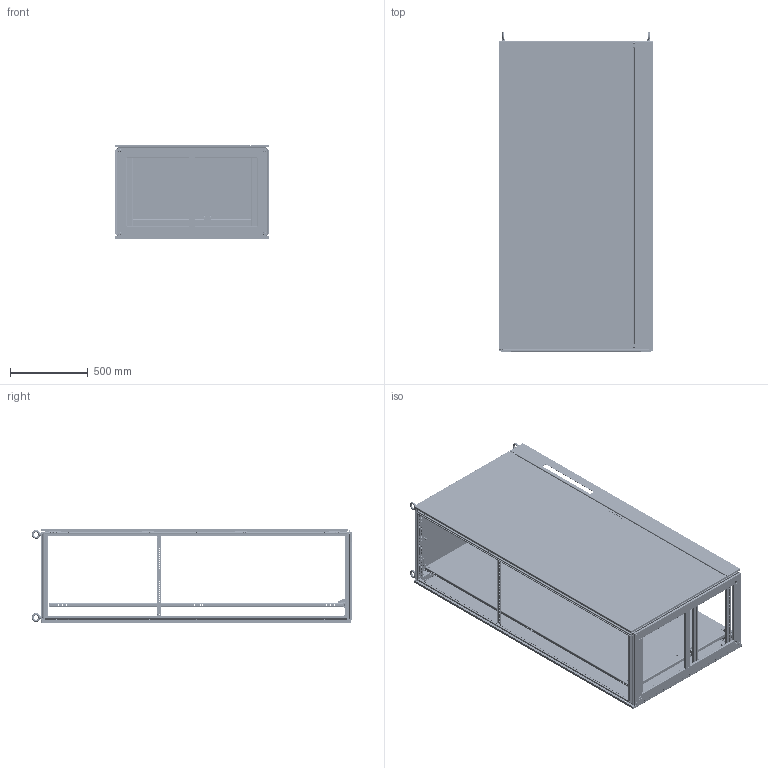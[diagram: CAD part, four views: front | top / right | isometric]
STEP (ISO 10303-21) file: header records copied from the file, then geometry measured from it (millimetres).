
FILE_DESCRIPTION((''),'2;1');
FILE_NAME('9951146_ASM','2015-03-11T',('us01724'),(''),'PRO/ENGINEER BY PARAMETRIC TECHNOLOGY CORPORATION, 2014310','PRO/ENGINEER BY PARAMETRIC TECHNOLOGY CORPORATION, 2014310','');
FILE_SCHEMA(('CONFIG_CONTROL_DESIGN'));
Products named in the file (58): D0242693_AF4; D0242693_AF5; D0277938_AF2; D0277938_AF3; D0242693; D0277938; D0242687; D0241135; D0054994_ASM; D0241538; D0241473; D0241152; D0208517; D0241463_TS_MPL_SLIDE_BLOCK_L; D0241464_TS_MPL_SLIDE_BLOCK_R; D0241469_TS_MPL_RETAINER_RIGHT; D0241468_TS_MPL_RETAINER_LEFT; D0271601; 211119; D0274958; D0043241; TS_GASKET_DOOR_FMDC_2000; D0242763_TS8_GROUND_STUD_M8; D0242763_TS8_CAP_M8; D0242763_ASM; D0207315; D0242679; D0041315; D0223916; D0043241_ASM; D0043309; TS_GASKET_DR_FMDC_LEFT_0920; D0233321; D0233331; D0214486; D0272092_ASM; D0241492; D0241496; D0042690; D0030693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
Assembly tree (139 placements, depth 4):
  9951146_ASM
    D0054994_ASM
      D0242693_AF4
      D0242693_AF5
      D0277938_AF2
      D0277938_AF3
      D0242693  x2
      D0277938  x2
      D0242687  x4
      D0241135  x8
    D0241538  x2
    D0241473  x2
    D0241152  x3
    D0208517  x2
    D0241463_TS_MPL_SLIDE_BLOCK_L
    D0241464_TS_MPL_SLIDE_BLOCK_R
    D0241469_TS_MPL_RETAINER_RIGHT
    D0241468_TS_MPL_RETAINER_LEFT
    D0271601
    211119
    D0274958  x8
    D0043241_ASM
      D0043241
      TS_GASKET_DOOR_FMDC_2000
      D0242763_ASM  x2
        D0242763_TS8_GROUND_STUD_M8
        D0242763_TS8_CAP_M8
      D0207315  x4
      D0242679  x3
      D0041315  x4
      D0223916
    D0043309_ASM
      D0043309
      TS_GASKET_DR_FMDC_LEFT_0920
      D0242763_ASM  x2
        D0242763_TS8_GROUND_STUD_M8
        D0242763_TS8_CAP_M8
      D0242679  x6
      D0207315  x4
      D0223916  x8
      D0272092_ASM
        D0233321  x2
        D0233331  x2
        D0214486  x4
      TS_LOCKBAR_ASSY_2000_DBL_ASM
        D0241492
        D0241496  x2
        D0042690  x2
        D0030693  x4
    D0275670_ASM
      D0275670
      TS_GASKET_ROOF_1006
      D0242763_ASM  x2
        D0242763_TS8_GROUND_STUD_M8
        D0242763_TS8_CAP_M8
    D0275871  x4
    D0275655_ASM
      TS_BASE_FRAME_MEM_600_NO_NOTCH  x2
      TS_BASE_FRAME_CORNER  x4
      TS_BASE_FRAME_MEM_1000  x2
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Bounding box: 997 x 2064.45 x 605.62 mm (x, y, z)
Volume: 20152981.5 mm3; surface area: 20701480.6 mm2
Topology: 153 solids, 161 shells, 22070 faces, 62093 edges, 40090 vertices
Faces by surface type: plane 12740, cylinder 8080, cone 412, torus 340, bspline 240, sphere 162, extrusion 96
Entity records: 319612 total; most frequent: CARTESIAN_POINT 60647, ORIENTED_EDGE 52962, DIRECTION 52830, EDGE_CURVE 26485, VECTOR 18330, LINE 18306, AXIS2_PLACEMENT_3D 17250, VERTEX_POINT 17171
